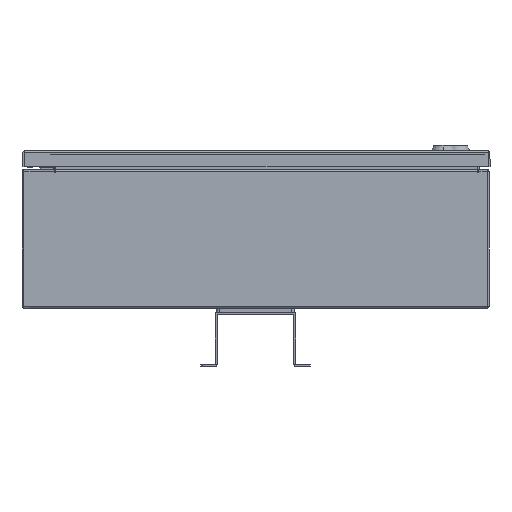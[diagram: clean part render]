
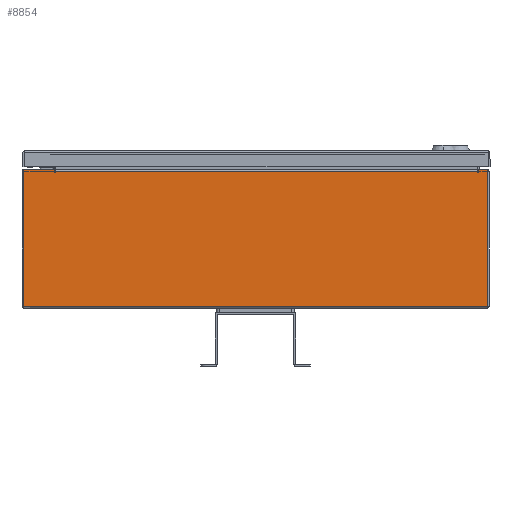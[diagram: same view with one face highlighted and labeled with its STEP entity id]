
A CAD part, front view. The second image highlights one B-rep face of the part: STEP entity #8854.
In plain terms, the highlighted planar face has unit normal (0, -1, 0).
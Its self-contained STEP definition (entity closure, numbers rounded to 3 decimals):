
#389 = ORIENTED_EDGE ( 'NONE', *, *, #6595, .F. ) ;
#1668 = LINE ( 'NONE', #56551, #29170 ) ;
#2594 = CARTESIAN_POINT ( 'NONE',  ( 253.484, -469.892, 156.141 ) ) ;
#3837 = LINE ( 'NONE', #52807, #25336 ) ;
#4254 = VERTEX_POINT ( 'NONE', #53706 ) ;
#4871 = CARTESIAN_POINT ( 'NONE',  ( -229.795, -469.892, 0. ) ) ;
#4958 = CARTESIAN_POINT ( 'NONE',  ( 253.484, -469.892, 156.141 ) ) ;
#5456 = VECTOR ( 'NONE', #65067, 1000. ) ;
#6595 = EDGE_CURVE ( 'NONE', #23985, #26589, #25018, .T. ) ;
#6915 = VECTOR ( 'NONE', #51332, 1000. ) ;
#7026 = CARTESIAN_POINT ( 'NONE',  ( -264.788, -469.892, 2.101 ) ) ;
#7182 = CARTESIAN_POINT ( 'NONE',  ( -264.795, -469.892, 158.242 ) ) ;
#7629 = DIRECTION ( 'NONE',  ( -1., 0., 0. ) ) ;
#8854 = ADVANCED_FACE ( 'NONE', ( #29042 ), #33533, .F. ) ;
#9843 = AXIS2_PLACEMENT_3D ( 'NONE', #28487, #49833, #55612 ) ;
#10291 = CARTESIAN_POINT ( 'NONE',  ( 0., -469.892, 155.193 ) ) ;
#10298 = ORIENTED_EDGE ( 'NONE', *, *, #64519, .F. ) ;
#10703 = ORIENTED_EDGE ( 'NONE', *, *, #11631, .F. ) ;
#10780 = ORIENTED_EDGE ( 'NONE', *, *, #52294, .T. ) ;
#10978 = EDGE_CURVE ( 'NONE', #58081, #58779, #15149, .T. ) ;
#11631 = EDGE_CURVE ( 'NONE', #28351, #28719, #3837, .T. ) ;
#14126 = CARTESIAN_POINT ( 'NONE',  ( 264.788, -469.892, 158.242 ) ) ;
#14318 = VERTEX_POINT ( 'NONE', #38330 ) ;
#14638 = LINE ( 'NONE', #7182, #6915 ) ;
#15118 = VERTEX_POINT ( 'NONE', #21635 ) ;
#15149 = LINE ( 'NONE', #4871, #45136 ) ;
#15257 = ORIENTED_EDGE ( 'NONE', *, *, #10978, .F. ) ;
#15292 = CARTESIAN_POINT ( 'NONE',  ( -228.846, -469.892, 0. ) ) ;
#15806 = VECTOR ( 'NONE', #37332, 1000. ) ;
#16080 = DIRECTION ( 'NONE',  ( 1., 0., 0. ) ) ;
#16638 = DIRECTION ( 'NONE',  ( 0., 0., -1. ) ) ;
#21635 = CARTESIAN_POINT ( 'NONE',  ( 264.788, -469.892, 2.101 ) ) ;
#22623 = LINE ( 'NONE', #31458, #63873 ) ;
#23985 = VERTEX_POINT ( 'NONE', #30211 ) ;
#24688 = ORIENTED_EDGE ( 'NONE', *, *, #53904, .T. ) ;
#25018 = LINE ( 'NONE', #41411, #64541 ) ;
#25336 = VECTOR ( 'NONE', #36467, 1000. ) ;
#26589 = VERTEX_POINT ( 'NONE', #45466 ) ;
#26921 = CARTESIAN_POINT ( 'NONE',  ( -229.795, -469.892, 155.193 ) ) ;
#28351 = VERTEX_POINT ( 'NONE', #7026 ) ;
#28430 = CARTESIAN_POINT ( 'NONE',  ( -229.795, -469.892, 158.242 ) ) ;
#28487 = CARTESIAN_POINT ( 'NONE',  ( 0., -469.892, 0. ) ) ;
#28719 = VERTEX_POINT ( 'NONE', #65732 ) ;
#29042 = FACE_OUTER_BOUND ( 'NONE', #29405, .T. ) ;
#29170 = VECTOR ( 'NONE', #67555, 1000. ) ;
#29244 = VERTEX_POINT ( 'NONE', #4958 ) ;
#29405 = EDGE_LOOP ( 'NONE', ( #389, #32146, #50581, #61206, #44917, #10298, #15257, #51549, #10703, #62295, #10780, #24688 ) ) ;
#30211 = CARTESIAN_POINT ( 'NONE',  ( 254.433, -469.892, 155.193 ) ) ;
#31436 = DIRECTION ( 'NONE',  ( 1., 0., 0. ) ) ;
#31458 = CARTESIAN_POINT ( 'NONE',  ( 253.484, -469.892, 0. ) ) ;
#32063 = LINE ( 'NONE', #37454, #5456 ) ;
#32146 = ORIENTED_EDGE ( 'NONE', *, *, #70630, .F. ) ;
#32281 = EDGE_CURVE ( 'NONE', #14318, #33644, #64748, .T. ) ;
#33325 = EDGE_CURVE ( 'NONE', #29244, #4254, #22623, .T. ) ;
#33533 = PLANE ( 'NONE',  #9843 ) ;
#33644 = VERTEX_POINT ( 'NONE', #51844 ) ;
#34229 = EDGE_CURVE ( 'NONE', #29244, #33644, #39674, .T. ) ;
#36467 = DIRECTION ( 'NONE',  ( 0., 0., 1. ) ) ;
#37332 = DIRECTION ( 'NONE',  ( 0., 0., 1. ) ) ;
#37405 = DIRECTION ( 'NONE',  ( 0., 0., -1. ) ) ;
#37454 = CARTESIAN_POINT ( 'NONE',  ( 264.788, -469.892, 0. ) ) ;
#37995 = VECTOR ( 'NONE', #31436, 1000. ) ;
#38330 = CARTESIAN_POINT ( 'NONE',  ( -228.846, -469.892, 155.193 ) ) ;
#38405 = EDGE_CURVE ( 'NONE', #58081, #28719, #1668, .T. ) ;
#38677 = LINE ( 'NONE', #58246, #64467 ) ;
#39674 = LINE ( 'NONE', #2594, #56038 ) ;
#41411 = CARTESIAN_POINT ( 'NONE',  ( 254.433, -469.892, 0. ) ) ;
#43049 = EDGE_CURVE ( 'NONE', #15118, #28351, #38677, .T. ) ;
#43122 = LINE ( 'NONE', #10291, #70637 ) ;
#44917 = ORIENTED_EDGE ( 'NONE', *, *, #32281, .F. ) ;
#45136 = VECTOR ( 'NONE', #16638, 1000. ) ;
#45466 = CARTESIAN_POINT ( 'NONE',  ( 254.433, -469.892, 158.242 ) ) ;
#47264 = VERTEX_POINT ( 'NONE', #14126 ) ;
#47384 = DIRECTION ( 'NONE',  ( 0., 0., 1. ) ) ;
#49833 = DIRECTION ( 'NONE',  ( 0., 1., 0. ) ) ;
#50581 = ORIENTED_EDGE ( 'NONE', *, *, #33325, .F. ) ;
#51332 = DIRECTION ( 'NONE',  ( -1., 0., 0. ) ) ;
#51549 = ORIENTED_EDGE ( 'NONE', *, *, #38405, .T. ) ;
#51844 = CARTESIAN_POINT ( 'NONE',  ( -228.846, -469.892, 156.141 ) ) ;
#52294 = EDGE_CURVE ( 'NONE', #15118, #47264, #32063, .T. ) ;
#52776 = CARTESIAN_POINT ( 'NONE',  ( 0., -469.892, 155.193 ) ) ;
#52807 = CARTESIAN_POINT ( 'NONE',  ( -264.788, -469.892, 0. ) ) ;
#53706 = CARTESIAN_POINT ( 'NONE',  ( 253.484, -469.892, 155.193 ) ) ;
#53904 = EDGE_CURVE ( 'NONE', #47264, #26589, #14638, .T. ) ;
#55612 = DIRECTION ( 'NONE',  ( 0., 0., 1. ) ) ;
#56038 = VECTOR ( 'NONE', #7629, 1000. ) ;
#56085 = LINE ( 'NONE', #52776, #37995 ) ;
#56551 = CARTESIAN_POINT ( 'NONE',  ( -264.795, -469.892, 158.242 ) ) ;
#58081 = VERTEX_POINT ( 'NONE', #28430 ) ;
#58246 = CARTESIAN_POINT ( 'NONE',  ( 0., -469.892, 2.101 ) ) ;
#58779 = VERTEX_POINT ( 'NONE', #26921 ) ;
#61206 = ORIENTED_EDGE ( 'NONE', *, *, #34229, .T. ) ;
#62295 = ORIENTED_EDGE ( 'NONE', *, *, #43049, .F. ) ;
#63873 = VECTOR ( 'NONE', #37405, 1000. ) ;
#64467 = VECTOR ( 'NONE', #69249, 1000. ) ;
#64519 = EDGE_CURVE ( 'NONE', #58779, #14318, #56085, .T. ) ;
#64541 = VECTOR ( 'NONE', #47384, 1000. ) ;
#64748 = LINE ( 'NONE', #15292, #15806 ) ;
#65067 = DIRECTION ( 'NONE',  ( 0., 0., 1. ) ) ;
#65732 = CARTESIAN_POINT ( 'NONE',  ( -264.788, -469.892, 158.242 ) ) ;
#67555 = DIRECTION ( 'NONE',  ( -1., 0., 0. ) ) ;
#69249 = DIRECTION ( 'NONE',  ( -1., 0., 0. ) ) ;
#70630 = EDGE_CURVE ( 'NONE', #4254, #23985, #43122, .T. ) ;
#70637 = VECTOR ( 'NONE', #16080, 1000. ) ;
